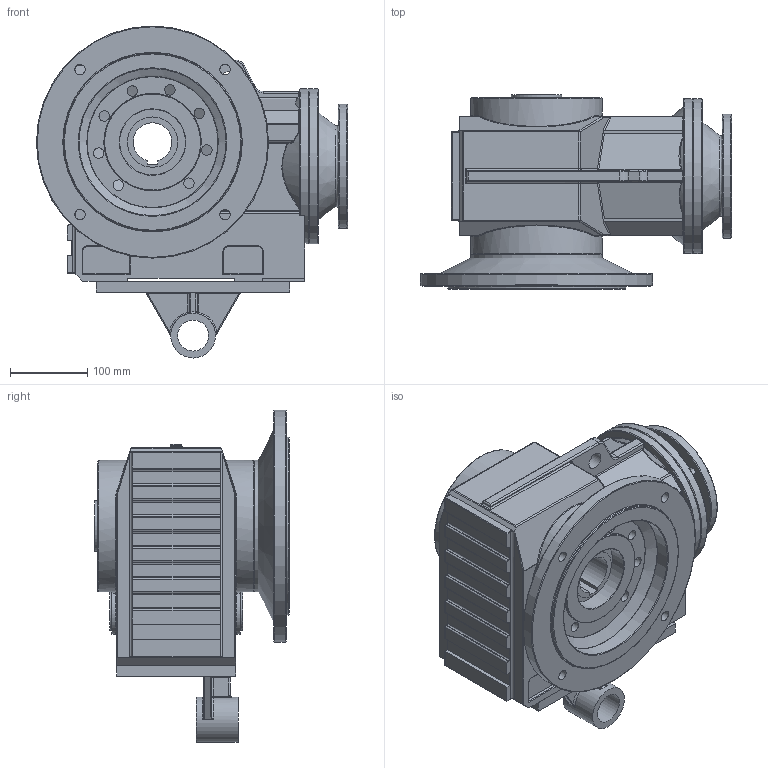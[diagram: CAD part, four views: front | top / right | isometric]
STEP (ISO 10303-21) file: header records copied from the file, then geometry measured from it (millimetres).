
FILE_DESCRIPTION((''),'2;1');
FILE_NAME('F:\PAWEŁ\ZLECENIA\2011 DualSystem\Przekładnie DK\001 Modele\DKAB70_\DK_70-_STEP\DK_A_70_AF_AT_71_B5_L50.stp','2012-06-26T18:59:29',('admin'),(''),'Autodesk Inventor 2009','Autodesk Inventor 2009','');
FILE_SCHEMA(('AUTOMOTIVE_DESIGN { 1 0 10303 214 1 1 1 1 }'));
Length unit declared in the file: millimetre
Products named in the file (6): DK_A_70_AF_AT_71_B5_L50; DK_A_70; 71_B5_L50; AF_F_70; AT_70; AZ_70
Assembly tree (5 placements, depth 2):
  DK_A_70_AF_AT_71_B5_L50
    DK_A_70
    71_B5_L50
    AF_F_70
    AT_70
    AZ_70
Bounding box: 402 x 251 x 429 mm (x, y, z)
Volume: 14865576.7 mm3; surface area: 899703.9 mm2
Topology: 5 solids, 5 shells, 557 faces, 1316 edges, 777 vertices
Faces by surface type: cylinder 203, plane 140, bspline 139, torus 55, sphere 12, cone 8
Full cylindrical faces by diameter (mm): 13.835 x4, 16 x4, 22 x1, 28 x1, 40 x1, 50 x1, 58 x1, 65 x1, 85 x1, 92 x1, 100 x1, 110 x2, 125 x1, 130 x1, 160 x1, 170 x1, 190 x1, 200 x2, 230 x1, 300 x1
Entity records: 21990 total; most frequent: CARTESIAN_POINT 9637, DIRECTION 2542, ORIENTED_EDGE 2430, EDGE_CURVE 1215, AXIS2_PLACEMENT_3D 1019, VERTEX_POINT 763, EDGE_LOOP 702, FACE_OUTER_BOUND 557
